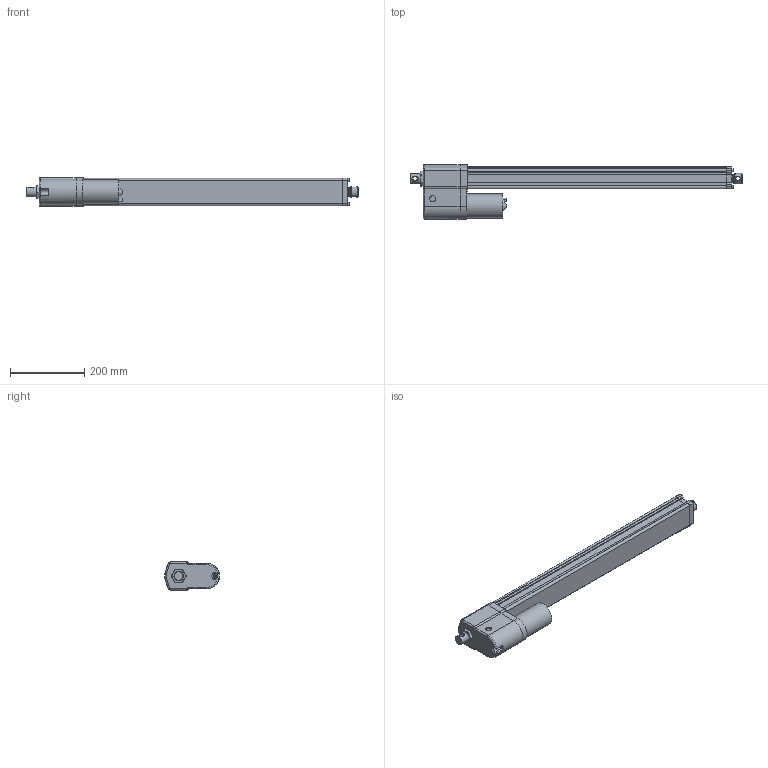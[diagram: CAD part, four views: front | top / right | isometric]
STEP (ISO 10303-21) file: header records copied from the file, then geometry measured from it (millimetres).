
FILE_DESCRIPTION( ( 'STEP AP214' ), '1' );
FILE_NAME( 'p:/temp/worker_345/temp/exporttempdir_5928_462_ntEw9/format_0/DA12-05A65M60M0NPO-AMM.stp', '2020-04-12T21:52:56', ( 'License CC BY-ND 4.0' ), ( 'CADENAS' ), ' ', 'PARTsolutions', ' ' );
FILE_SCHEMA( ( 'AUTOMOTIVE_DESIGN { 1 0 10303 214 1 1 1 1 }' ) );
Length unit declared in the file: millimetre
Products named in the file (8): DA12-05A65M60M0NPO-AMM; _ELECTRAK-LA14-DA12-05A65MM0NPO-60M-EU-REAR; _Electrak-10-EU-RA-D602700; _D602768eu; _ELECTRAK-LA14-DA12--MOTOR; _DA12-05A65M60M0NPOAMMtube; _ELECTRAK-LA14-DA12--60-PLATE; _ELECTRAK-LA14-DA12--6005A65MNPOM-ROD
Assembly tree (7 placements, depth 2):
  DA12-05A65M60M0NPO-AMM
    _ELECTRAK-LA14-DA12-05A65MM0NPO-60M-EU-REAR
    _Electrak-10-EU-RA-D602700
    _D602768eu
    _ELECTRAK-LA14-DA12--MOTOR
    _DA12-05A65M60M0NPOAMMtube
    _ELECTRAK-LA14-DA12--60-PLATE
    _ELECTRAK-LA14-DA12--6005A65MNPOM-ROD
Bounding box: 896.05 x 148 x 76.2 mm (x, y, z)
Volume: 2718538.9 mm3; surface area: 668507.1 mm2
Topology: 7 solids, 8 shells, 378 faces, 942 edges, 611 vertices
Faces by surface type: plane 184, cylinder 131, cone 45, torus 14, bspline 4
Full cylindrical faces by diameter (mm): 4 x2, 4.126 x1, 4.8 x5, 5 x5, 5.6 x4, 7.878 x4, 9.398 x1, 12.2 x2, 16 x1, 16.5 x1, 21.8 x1, 25.2 x1, 25.4 x1, 26.24 x1, 28.5 x1, 28.6 x2, 47.625 x1, 65.3 x1
Entity records: 14739 total; most frequent: CARTESIAN_POINT 2729, DIRECTION 1869, ORIENTED_EDGE 1744, EDGE_CURVE 872, AXIS2_PLACEMENT_3D 702, VERTEX_POINT 602, EDGE_LOOP 485, LINE 465
